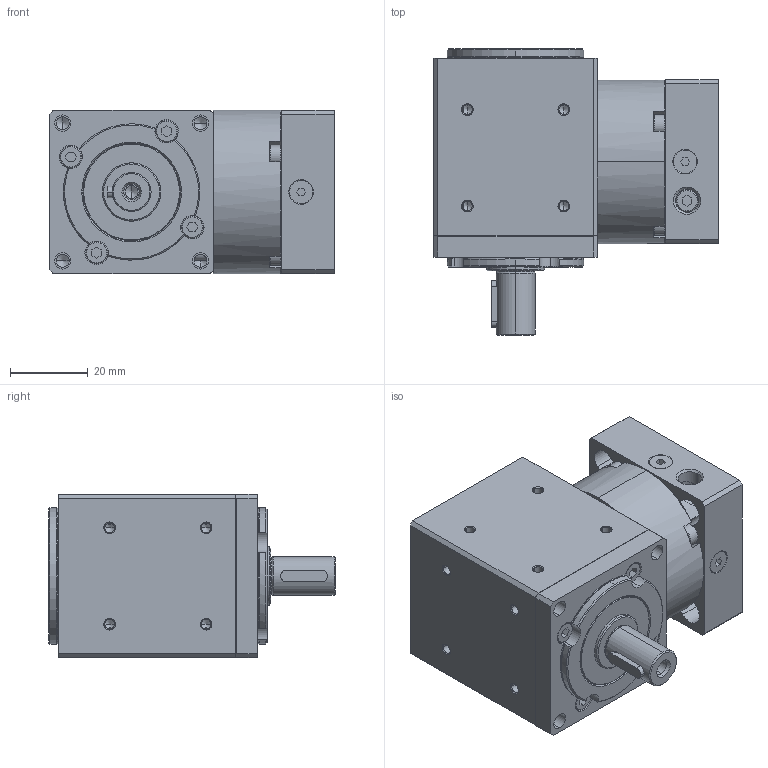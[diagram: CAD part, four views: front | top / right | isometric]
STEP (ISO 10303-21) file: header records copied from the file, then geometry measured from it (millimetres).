
FILE_DESCRIPTION (( 'STEP AP203' ), '1' );
FILE_NAME ('RLAS-042-00X.STEP', '2012-02-27T18:22:39', ( 'render' ), ( '' ), 'SwSTEP 2.0', 'SolidWorks 2011', '' );
FILE_SCHEMA (( 'CONFIG_CONTROL_DESIGN' ));
Length unit declared in the file: millimetre
Products named in the file (1): RLAS-042-00X
Bounding box: 73 x 73.5 x 42 mm (x, y, z)
Volume: 95141 mm3; surface area: 55474.5 mm2
Topology: 26 solids, 26 shells, 1013 faces, 2521 edges, 1564 vertices
Faces by surface type: cylinder 368, cone 306, plane 280, bspline 59
Entity records: 35739 total; most frequent: CARTESIAN_POINT 11916, DIRECTION 5013, ORIENTED_EDGE 4918, EDGE_CURVE 2459, AXIS2_PLACEMENT_3D 1961, VERTEX_POINT 1564, EDGE_LOOP 1181, VECTOR 1091
